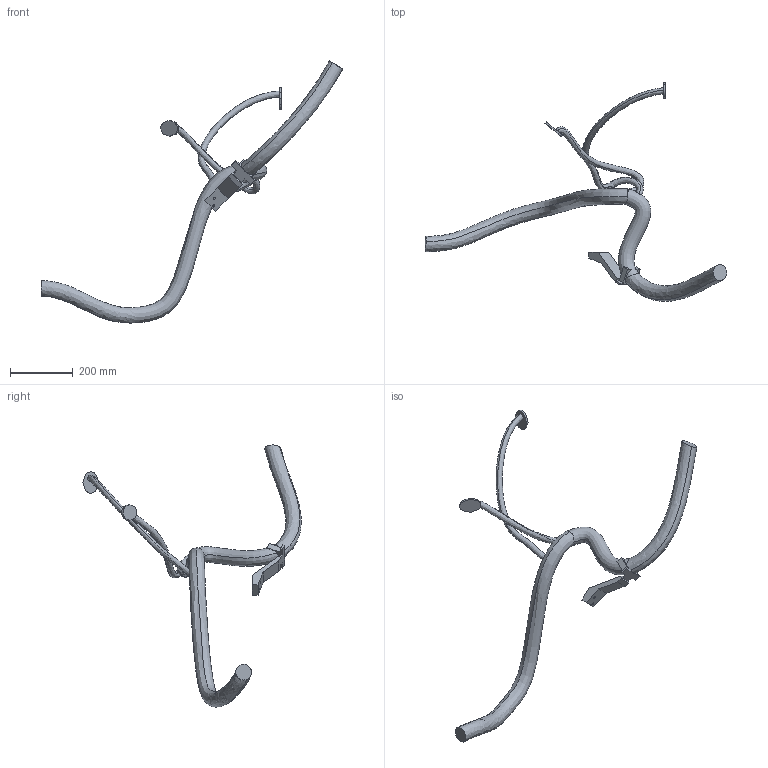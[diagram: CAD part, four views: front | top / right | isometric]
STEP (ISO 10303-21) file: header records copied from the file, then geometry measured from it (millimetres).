
FILE_DESCRIPTION (( 'STEP AP203' ), '1' );
FILE_NAME ('IRB6700-MH6_220-300_IRC5_rev01_LINK01m_CABLE.STEP', '2014-08-27T11:27:24', ( 'ABB' ), ( 'ABB' ), 'SwSTEP 2.0', 'SolidWorks 2012', '' );
FILE_SCHEMA (( 'CONFIG_CONTROL_DESIGN' ));
Length unit declared in the file: millimetre
Products named in the file (1): IRB6700-MH6_220-300_IRC5_rev01_LINK01m_CABLE
Bounding box: 961.21 x 697.21 x 835.9 mm (x, y, z)
Volume: 3932116.2 mm3; surface area: 388117.2 mm2
Topology: 1 solids, 1 shells, 63 faces, 191 edges, 128 vertices
Faces by surface type: plane 42, bspline 11, cylinder 10
Entity records: 13621 total; most frequent: CARTESIAN_POINT 11959, ORIENTED_EDGE 382, DIRECTION 254, EDGE_CURVE 191, VERTEX_POINT 128, VECTOR 100, LINE 100, AXIS2_PLACEMENT_3D 77
